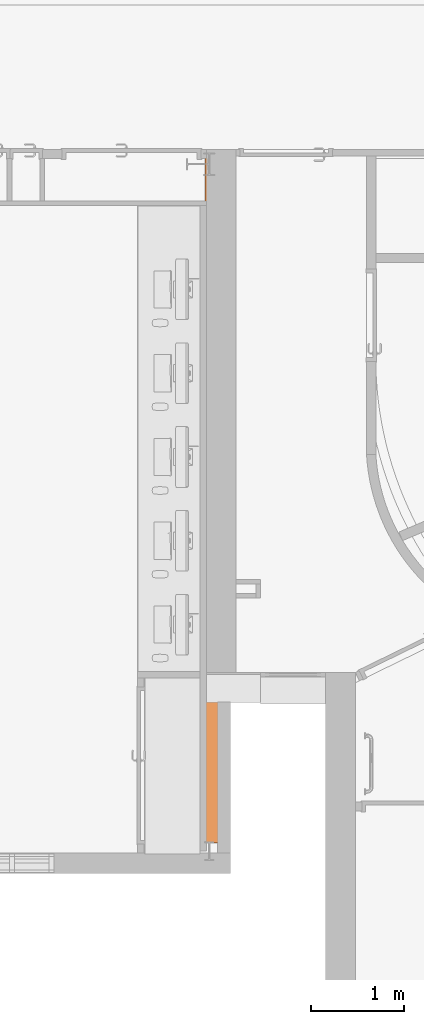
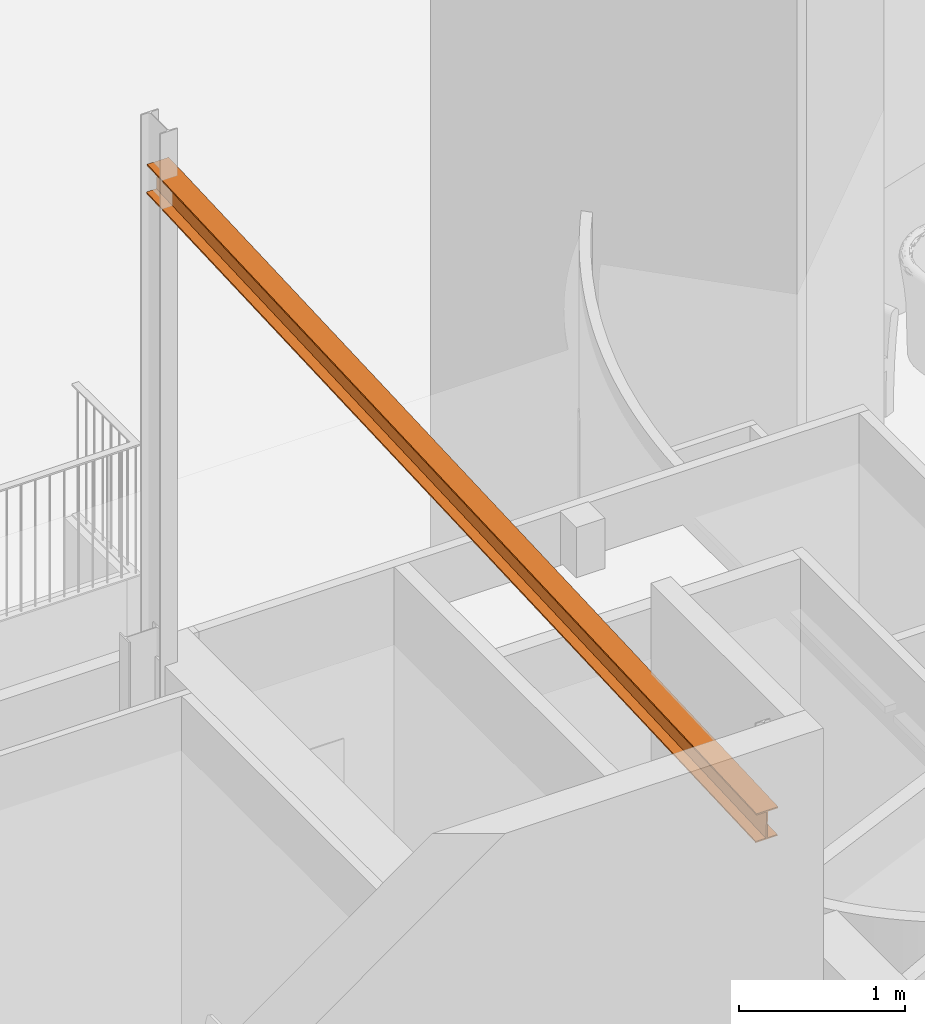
# One storey, part 128 of 137: 1 proxy.
"""IFC2X3 building model written with IfcOpenShell, lengths in centimetres."""

from ifc_helpers import new_model, entity, si_unit, converted_unit, derived_unit, direction, frame, frame_2d, origin, place, context, subcontext, project, spatial, rectangle, extrude, source, transform, mapped, element, save


model = new_model("IFC2X3")

# Units and contexts
model_context = context("Model", 3, precision=0.001, world=origin(), true_north=direction((6.12303176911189e-17, 1.0)))
body_context = subcontext(model_context, "Body", "Model", "MODEL_VIEW")
ifc_project = project(units=[si_unit("LENGTHUNIT", "METRE", prefix="CENTI"), si_unit("AREAUNIT", "SQUARE_METRE"), si_unit("VOLUMEUNIT", "CUBIC_METRE"), converted_unit("PLANEANGLEUNIT", "DEGREE", entity("IfcRatioMeasure", 0.0174532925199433), si_unit("PLANEANGLEUNIT", "RADIAN"), dimensions=[0, 0, 0, 0, 0, 0, 0]), si_unit("MASSUNIT", "GRAM", prefix="KILO"), si_unit("TIMEUNIT", "SECOND"), si_unit("FREQUENCYUNIT", "HERTZ"), si_unit("THERMODYNAMICTEMPERATUREUNIT", "DEGREE_CELSIUS"), derived_unit("THERMALTRANSMITTANCEUNIT", [(si_unit("MASSUNIT", "GRAM", prefix="KILO"), 1), (si_unit("THERMODYNAMICTEMPERATUREUNIT", "KELVIN"), -1), (si_unit("TIMEUNIT", "SECOND"), -3)]), derived_unit("VOLUMETRICFLOWRATEUNIT", [(si_unit("LENGTHUNIT", "METRE"), 3), (si_unit("TIMEUNIT", "SECOND"), -1)]), si_unit("ELECTRICCURRENTUNIT", "AMPERE"), si_unit("ELECTRICVOLTAGEUNIT", "VOLT"), si_unit("POWERUNIT", "WATT"), si_unit("FORCEUNIT", "NEWTON", prefix="KILO"), si_unit("ILLUMINANCEUNIT", "LUX"), si_unit("LUMINOUSFLUXUNIT", "LUMEN"), si_unit("LUMINOUSINTENSITYUNIT", "CANDELA"), derived_unit("USERDEFINED", [(si_unit("MASSUNIT", "GRAM", prefix="KILO"), -1), (si_unit("LENGTHUNIT", "METRE"), -2), (si_unit("TIMEUNIT", "SECOND"), 3), (si_unit("LUMINOUSFLUXUNIT", "LUMEN"), 1)]), derived_unit("LINEARVELOCITYUNIT", [(si_unit("LENGTHUNIT", "METRE"), 1), (si_unit("TIMEUNIT", "SECOND"), -1)]), si_unit("PRESSUREUNIT", "PASCAL"), derived_unit("USERDEFINED", [(si_unit("LENGTHUNIT", "METRE"), -2), (si_unit("MASSUNIT", "GRAM", prefix="KILO"), 1), (si_unit("TIMEUNIT", "SECOND"), -2)])], contexts=[model_context])

# Site, building, storey
site_placement = place(None, frame((8.62739174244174, -249.285249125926, 0.0)))
site = spatial("IfcSite", under=ifc_project, at=site_placement, Name="Default", CompositionType="ELEMENT")
building_placement = place(site_placement, origin())
building = spatial("IfcBuilding", under=site, at=building_placement, CompositionType="ELEMENT")
storey_placement = place(building_placement, origin())
storey = spatial("IfcBuildingStorey", under=building, at=storey_placement, Name="RDC", CompositionType="ELEMENT", Elevation=-8.82465566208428e-11)

# Proxy
shared_shape = source(origin(), body_context, "Body", "SweptSolid", [
    extrude(rectangle(XDim=0.999999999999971, YDim=14.9999999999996, at=frame_2d((0.0, 4.44089209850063e-16), x_axis=(1.0, 0.0))), frame((-464.999102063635, -0.499999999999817, -4.72502125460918), z_axis=(0.999390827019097, 0.0, 0.0348994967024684), x_axis=(0.0348994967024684, 0.0, -0.999390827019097)), (0.0, 0.0, 1.0), 736.399999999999),
    extrude(rectangle(XDim=0.999999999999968, YDim=14.9999999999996, at=frame_2d((-2.58126853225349e-15, 0.0), x_axis=(1.0, 0.0))), frame((-464.266212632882, -0.499999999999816, -25.7122286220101), z_axis=(0.999390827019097, 0.0, 0.0348994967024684), x_axis=(0.0348994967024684, 0.0, -0.999390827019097)), (0.0, 0.0, 1.0), 736.399999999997),
    extrude(rectangle(XDim=20.0, YDim=1.00000000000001, at=frame_2d((0.0, 1.77635683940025e-15), x_axis=(0.0, 1.0))), frame((-464.632657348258, -0.499999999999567, -15.2186249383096), z_axis=(0.999390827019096, 0.0, 0.0348994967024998), x_axis=(0.0, 1.0, 0.0)), (0.0, 0.0, 1.0), 736.4),
])
proxy_placement = place(storey_placement, frame((2168.38031400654, 497.860002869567, 657.025230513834), z_axis=(0.0, -0.00923739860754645, 0.999957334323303), x_axis=(0.0, 0.999957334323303, 0.00923739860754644)))
element("IfcBuildingElementProxy", 1, at=proxy_placement, inside=storey, Name="Portique_D-E-G:Portique_D-E-G", ObjectType="Portique_D-E-G", context=body_context, shape_type="MappedRepresentation", body=[
    mapped(shared_shape, transform((0.0, 0.0, 0.0), scale=1.0)),
])

save(model, "model.ifc")
